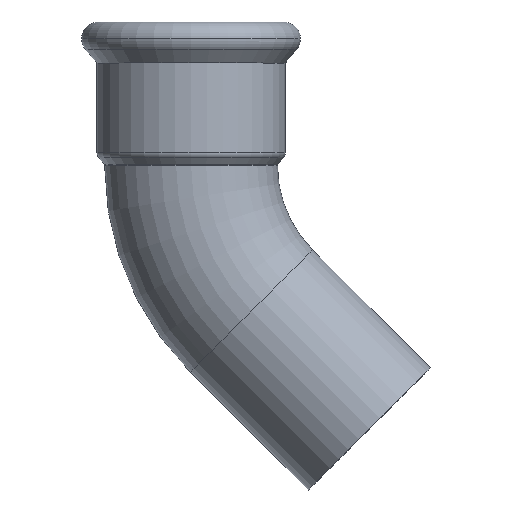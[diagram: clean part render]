
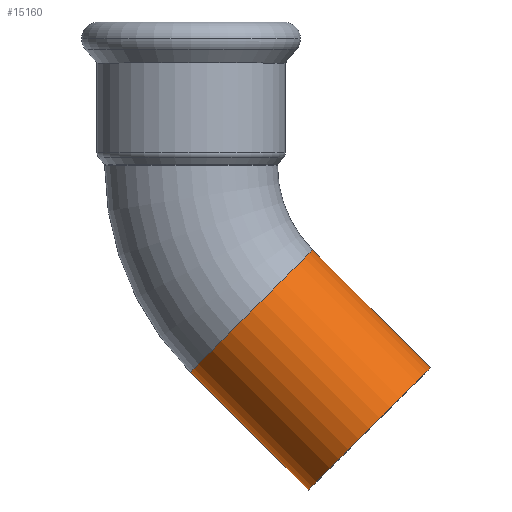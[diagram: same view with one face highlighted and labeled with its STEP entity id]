
A CAD part, top view. The second image highlights one B-rep face of the part: STEP entity #15160.
In plain terms, the highlighted cylindrical face has radius 17.594 mm (diameter 35.189 mm), a partial arc.
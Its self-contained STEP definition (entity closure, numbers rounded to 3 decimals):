
#14250=CARTESIAN_POINT('',(-263.769,176.162,0.));
#14260=VERTEX_POINT('',#14250);
#14360=CARTESIAN_POINT('',(-288.651,151.28,
0.));
#14370=VERTEX_POINT('',#14360);
#14400=CARTESIAN_POINT('',(-276.21,163.721,0.));
#14410=DIRECTION('',(0.707,-0.707,0.));
#14420=DIRECTION('',(0.707,0.707,0.));
#14430=AXIS2_PLACEMENT_3D('',#14400,#14410,#14420);
#14440=CIRCLE('',#14430,17.594);
#14840=CARTESIAN_POINT('',(-276.21,163.721,0.));
#14850=DIRECTION('',(-0.707,0.707,0.));
#14860=DIRECTION('',(0.707,0.707,0.));
#14870=AXIS2_PLACEMENT_3D('',#14840,#14850,#14860);
#14880=CYLINDRICAL_SURFACE('',#14870,17.594);
#14890=CARTESIAN_POINT('',(-288.651,151.28,
0.));
#14900=DIRECTION('',(-0.707,0.707,0.));
#14910=VECTOR('',#14900,1.);
#14920=LINE('',#14890,#14910);
#14930=CARTESIAN_POINT('',(-264.678,127.306,
0.));
#14940=VERTEX_POINT('',#14930);
#14950=EDGE_CURVE('',#14940,#14370,#14920,.T.);
#14960=ORIENTED_EDGE('',*,*,#14950,.F.);
#14970=EDGE_CURVE('',#14260,#14370,#14440,.T.);
#14980=ORIENTED_EDGE('',*,*,#14970,.T.);
#14990=CARTESIAN_POINT('',(-263.769,176.162,0.));
#15000=DIRECTION('',(-0.707,0.707,0.));
#15010=VECTOR('',#15000,1.);
#15020=LINE('',#14990,#15010);
#15030=CARTESIAN_POINT('',(-239.796,152.189,0.));
#15040=VERTEX_POINT('',#15030);
#15050=EDGE_CURVE('',#15040,#14260,#15020,.T.);
#15060=ORIENTED_EDGE('',*,*,#15050,.T.);
#15070=CARTESIAN_POINT('',(-252.237,139.747,0.));
#15080=DIRECTION('',(-0.707,0.707,0.));
#15090=DIRECTION('',(0.707,0.707,0.));
#15100=AXIS2_PLACEMENT_3D('',#15070,#15080,#15090);
#15110=CIRCLE('',#15100,17.594);
#15120=EDGE_CURVE('',#14940,#15040,#15110,.T.);
#15130=ORIENTED_EDGE('',*,*,#15120,.T.);
#15140=EDGE_LOOP('',(#15130,#15060,#14980,#14960));
#15150=FACE_OUTER_BOUND('',#15140,.T.);
#15160=ADVANCED_FACE('',(#15150),#14880,.T.);
